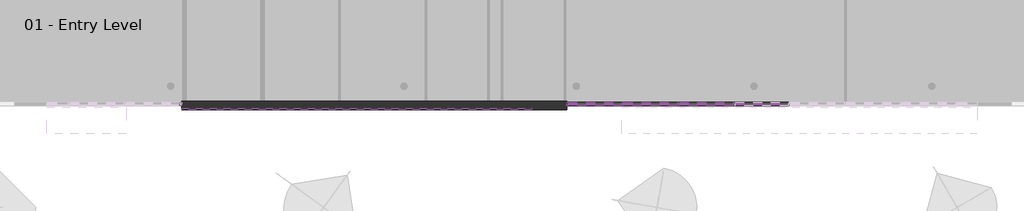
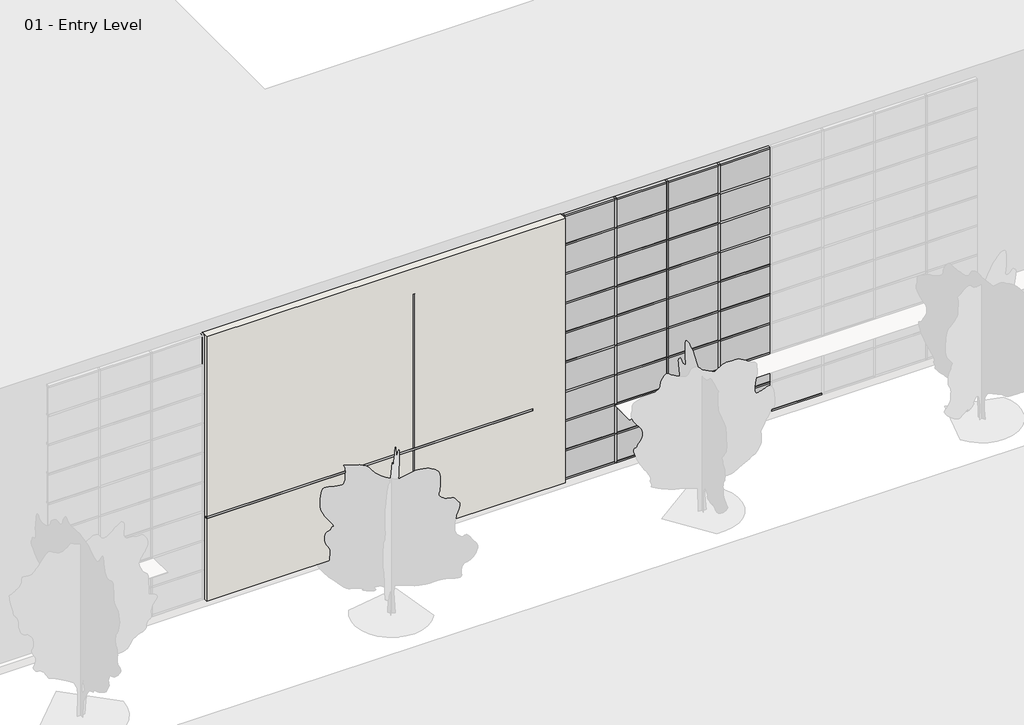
# One storey, part 2 of 34: 84 members, 36 plates, 2 proxies, 1 wall.
"""IFC4 building model written with IfcOpenShell, lengths in millimetres."""

from ifc_helpers import new_model, si_unit, frame, origin, origin_with_axes, place, context, project, spatial, polyline, outline, extrude, faceted_brep, transform, mapped, element, save
from components import member_2b49869a, member_75074519, member_391b434c, member_9e90ae50, system_panel_glazed_1b9d6098, system_panel_glazed_70da479d, system_panel_solid_b376696c, system_panel_solid_77e8b053

model = new_model("IFC4")

# Units and contexts
model_context = context("Model", 3, world=origin())
ifc_project = project(units=[si_unit("LENGTHUNIT", "METRE", prefix="MILLI")], contexts=[model_context])

# Site, building, storey
site = spatial("IfcSite", under=ifc_project)
building = spatial("IfcBuilding", under=site)
storey = spatial("IfcBuildingStorey", under=building, Name="01 - Entry Level", Elevation=0.0)

# Proxies
placement = place(None, origin())
element("IfcBuildingElementProxy", 1, Name="Reveal", ObjectType="Reveal", at=placement, inside=storey, context=model_context, shape_type="SweptSolid", body=[
    extrude(outline(polyline([(16536.3207476, -203.275), (16536.3207476, -254.075), (16460.1207476, -254.075), (16460.1207476, -203.275), (16536.3207476, -203.275)])), origin_with_axes(), (0.0, 0.0, 1.0), 9906.0),
])
element("IfcBuildingElementProxy", 2, Name="Reveal", ObjectType="Reveal", at=placement, inside=storey, context=model_context, shape_type="SweptSolid", body=[
    extrude(outline(polyline([(8357.5207476, -254.075), (8357.5207476, -203.275), (21159.1207476, -203.275), (21159.1207476, -254.075), (8357.5207476, -254.075)])), frame((0.0, 0.0, 3429.0), z_axis=(0.0, 0.0, 1.0), x_axis=(1.0, 0.0, 0.0)), (0.0, 0.0, 1.0), 76.2),
])

# Members
member_shape = member_2b49869a(model_context)
element("IfcMember", 3, ObjectType="Rectangular Mullion : 2.5\" x 5\" rectangular", at=placement, inside=storey, context=model_context, shape_type="MappedRepresentation", body=[
    mapped(member_shape, transform((22467.2207476, -47.7, 9753.6), x_axis=(1.0, 0.0, 0.0), y_axis=(0.0, -1.0, 0.0), z_axis=(0.0, 0.0, -1.0))),
])
element("IfcMember", 4, ObjectType="Rectangular Mullion : 2.5\" x 5\" rectangular", at=placement, inside=storey, context=model_context, shape_type="MappedRepresentation", body=[
    mapped(member_shape, transform((24499.2207476, -47.7, 9753.6), x_axis=(1.0, 0.0, 0.0), y_axis=(0.0, -1.0, 0.0), z_axis=(0.0, 0.0, -1.0))),
])
element("IfcMember", 5, ObjectType="Rectangular Mullion : 2.5\" x 5\" rectangular", at=placement, inside=storey, context=model_context, shape_type="MappedRepresentation", body=[
    mapped(member_shape, transform((26531.2207476, -47.7, 9753.6), x_axis=(1.0, 0.0, 0.0), y_axis=(0.0, -1.0, 0.0), z_axis=(0.0, 0.0, -1.0))),
])
element("IfcMember", 6, ObjectType="Rectangular Mullion : 2.5\" x 5\" rectangular", at=placement, inside=storey, context=model_context, shape_type="MappedRepresentation", body=[
    mapped(member_shape, transform((28563.2207476, -47.7, 9753.6), x_axis=(1.0, 0.0, 0.0), y_axis=(0.0, -1.0, 0.0), z_axis=(0.0, 0.0, -1.0))),
])
element("IfcMember", 7, ObjectType="Rectangular Mullion : 2.5\" x 5\" rectangular", at=placement, inside=storey, context=model_context, shape_type="MappedRepresentation", body=[
    mapped(member_shape, transform((8306.7207476, -47.7, 9753.6), x_axis=(1.0, 0.0, 0.0), y_axis=(0.0, -1.0, 0.0), z_axis=(0.0, 0.0, -1.0))),
])
member_2_shape = member_75074519(model_context)
element("IfcMember", 8, ObjectType="Rectangular Mullion : 2.5\" x 5\" rectangular", at=placement, inside=storey, context=model_context, shape_type="MappedRepresentation", body=[
    mapped(member_2_shape, transform((22429.1207476, -47.7, 10972.8), x_axis=(-1.0, 0.0, 0.0), y_axis=(0.0, -1.0, 0.0), z_axis=(0.0, 0.0, 1.0))),
])
member_3_shape = member_391b434c(model_context)
element("IfcMember", 9, ObjectType="Rectangular Mullion : 2.5\" x 5\" rectangular", at=placement, inside=storey, context=model_context, shape_type="MappedRepresentation", body=[
    mapped(member_3_shape, transform((24467.4707476, -47.7, 10972.8), x_axis=(0.0, 0.0, 1.0), y_axis=(0.0, -1.0, 0.0), z_axis=(1.0, 0.0, 0.0))),
])
element("IfcMember", 10, ObjectType="Rectangular Mullion : 2.5\" x 5\" rectangular", at=placement, inside=storey, context=model_context, shape_type="MappedRepresentation", body=[
    mapped(member_3_shape, transform((26499.4707476, -47.7, 10972.8), x_axis=(0.0, 0.0, 1.0), y_axis=(0.0, -1.0, 0.0), z_axis=(1.0, 0.0, 0.0))),
])
element("IfcMember", 11, ObjectType="Rectangular Mullion : 2.5\" x 5\" rectangular", at=placement, inside=storey, context=model_context, shape_type="MappedRepresentation", body=[
    mapped(member_3_shape, transform((28531.4707476, -47.7, 10972.8), x_axis=(0.0, 0.0, 1.0), y_axis=(0.0, -1.0, 0.0), z_axis=(1.0, 0.0, 0.0))),
])
element("IfcMember", 12, ObjectType="Rectangular Mullion : 2.5\" x 5\" rectangular", at=placement, inside=storey, context=model_context, shape_type="MappedRepresentation", body=[
    mapped(member_3_shape, transform((30563.4707476, -47.7, 10972.8), x_axis=(0.0, 0.0, 1.0), y_axis=(0.0, -1.0, 0.0), z_axis=(1.0, 0.0, 0.0))),
])
element("IfcMember", 13, ObjectType="Rectangular Mullion : 2.5\" x 5\" rectangular", at=placement, inside=storey, context=model_context, shape_type="MappedRepresentation", body=[
    mapped(member_3_shape, transform((22498.9707476, -47.7, 0.0), x_axis=(0.0, 0.0, -1.0), y_axis=(0.0, -1.0, 0.0), z_axis=(-1.0, 0.0, 0.0))),
])
element("IfcMember", 14, ObjectType="Rectangular Mullion : 2.5\" x 5\" rectangular", at=placement, inside=storey, context=model_context, shape_type="MappedRepresentation", body=[
    mapped(member_3_shape, transform((24530.9707476, -47.7, 0.0), x_axis=(0.0, 0.0, -1.0), y_axis=(0.0, -1.0, 0.0), z_axis=(-1.0, 0.0, 0.0))),
])
element("IfcMember", 15, ObjectType="Rectangular Mullion : 2.5\" x 5\" rectangular", at=placement, inside=storey, context=model_context, shape_type="MappedRepresentation", body=[
    mapped(member_3_shape, transform((26562.9707476, -47.7, 0.0), x_axis=(0.0, 0.0, -1.0), y_axis=(0.0, -1.0, 0.0), z_axis=(-1.0, 0.0, 0.0))),
])
element("IfcMember", 16, ObjectType="Rectangular Mullion : 2.5\" x 5\" rectangular", at=placement, inside=storey, context=model_context, shape_type="MappedRepresentation", body=[
    mapped(member_3_shape, transform((28594.9707476, -47.7, 0.0), x_axis=(0.0, 0.0, -1.0), y_axis=(0.0, -1.0, 0.0), z_axis=(-1.0, 0.0, 0.0))),
])
element("IfcMember", 17, ObjectType="Rectangular Mullion : 2.5\" x 5\" rectangular", at=placement, inside=storey, context=model_context, shape_type="MappedRepresentation", body=[
    mapped(member_3_shape, transform((30626.9707476, -47.7, 0.0), x_axis=(0.0, 0.0, -1.0), y_axis=(0.0, -1.0, 0.0), z_axis=(-1.0, 0.0, 0.0))),
])
member_4_shape = member_9e90ae50(model_context)
element("IfcMember", 18, ObjectType="Rectangular Mullion : 2.5\" x 5\" rectangular", at=placement, inside=storey, context=model_context, shape_type="MappedRepresentation", body=[
    mapped(member_4_shape, transform((24467.4707476, -47.7, 1219.2), x_axis=(0.0, 0.0, 1.0), y_axis=(0.0, -1.0, 0.0), z_axis=(1.0, 0.0, 0.0))),
])
element("IfcMember", 19, ObjectType="Rectangular Mullion : 2.5\" x 5\" rectangular", at=placement, inside=storey, context=model_context, shape_type="MappedRepresentation", body=[
    mapped(member_4_shape, transform((26499.4707476, -47.7, 1219.2), x_axis=(0.0, 0.0, 1.0), y_axis=(0.0, -1.0, 0.0), z_axis=(1.0, 0.0, 0.0))),
])
element("IfcMember", 20, ObjectType="Rectangular Mullion : 2.5\" x 5\" rectangular", at=placement, inside=storey, context=model_context, shape_type="MappedRepresentation", body=[
    mapped(member_4_shape, transform((28531.4707476, -47.7, 1219.2), x_axis=(0.0, 0.0, 1.0), y_axis=(0.0, -1.0, 0.0), z_axis=(1.0, 0.0, 0.0))),
])
element("IfcMember", 21, ObjectType="Rectangular Mullion : 2.5\" x 5\" rectangular", at=placement, inside=storey, context=model_context, shape_type="MappedRepresentation", body=[
    mapped(member_4_shape, transform((30563.4707476, -47.7, 1219.2), x_axis=(0.0, 0.0, 1.0), y_axis=(0.0, -1.0, 0.0), z_axis=(1.0, 0.0, 0.0))),
])
element("IfcMember", 22, ObjectType="Rectangular Mullion : 2.5\" x 5\" rectangular", at=placement, inside=storey, context=model_context, shape_type="MappedRepresentation", body=[
    mapped(member_4_shape, transform((24467.4707476, -47.7, 2438.4), x_axis=(0.0, 0.0, 1.0), y_axis=(0.0, -1.0, 0.0), z_axis=(1.0, 0.0, 0.0))),
])
element("IfcMember", 23, ObjectType="Rectangular Mullion : 2.5\" x 5\" rectangular", at=placement, inside=storey, context=model_context, shape_type="MappedRepresentation", body=[
    mapped(member_4_shape, transform((26499.4707476, -47.7, 2438.4), x_axis=(0.0, 0.0, 1.0), y_axis=(0.0, -1.0, 0.0), z_axis=(1.0, 0.0, 0.0))),
])
element("IfcMember", 24, ObjectType="Rectangular Mullion : 2.5\" x 5\" rectangular", at=placement, inside=storey, context=model_context, shape_type="MappedRepresentation", body=[
    mapped(member_4_shape, transform((28531.4707476, -47.7, 2438.4), x_axis=(0.0, 0.0, 1.0), y_axis=(0.0, -1.0, 0.0), z_axis=(1.0, 0.0, 0.0))),
])
element("IfcMember", 25, ObjectType="Rectangular Mullion : 2.5\" x 5\" rectangular", at=placement, inside=storey, context=model_context, shape_type="MappedRepresentation", body=[
    mapped(member_4_shape, transform((30563.4707476, -47.7, 2438.4), x_axis=(0.0, 0.0, 1.0), y_axis=(0.0, -1.0, 0.0), z_axis=(1.0, 0.0, 0.0))),
])
element("IfcMember", 26, ObjectType="Rectangular Mullion : 2.5\" x 5\" rectangular", at=placement, inside=storey, context=model_context, shape_type="MappedRepresentation", body=[
    mapped(member_4_shape, transform((24467.4707476, -47.7, 3657.6), x_axis=(0.0, 0.0, 1.0), y_axis=(0.0, -1.0, 0.0), z_axis=(1.0, 0.0, 0.0))),
])
element("IfcMember", 27, ObjectType="Rectangular Mullion : 2.5\" x 5\" rectangular", at=placement, inside=storey, context=model_context, shape_type="MappedRepresentation", body=[
    mapped(member_4_shape, transform((26499.4707476, -47.7, 3657.6), x_axis=(0.0, 0.0, 1.0), y_axis=(0.0, -1.0, 0.0), z_axis=(1.0, 0.0, 0.0))),
])
element("IfcMember", 28, ObjectType="Rectangular Mullion : 2.5\" x 5\" rectangular", at=placement, inside=storey, context=model_context, shape_type="MappedRepresentation", body=[
    mapped(member_4_shape, transform((28531.4707476, -47.7, 3657.6), x_axis=(0.0, 0.0, 1.0), y_axis=(0.0, -1.0, 0.0), z_axis=(1.0, 0.0, 0.0))),
])
element("IfcMember", 29, ObjectType="Rectangular Mullion : 2.5\" x 5\" rectangular", at=placement, inside=storey, context=model_context, shape_type="MappedRepresentation", body=[
    mapped(member_4_shape, transform((30563.4707476, -47.7, 3657.6), x_axis=(0.0, 0.0, 1.0), y_axis=(0.0, -1.0, 0.0), z_axis=(1.0, 0.0, 0.0))),
])
element("IfcMember", 30, ObjectType="Rectangular Mullion : 2.5\" x 5\" rectangular", at=placement, inside=storey, context=model_context, shape_type="MappedRepresentation", body=[
    mapped(member_4_shape, transform((24467.4707476, -47.7, 4876.8), x_axis=(0.0, 0.0, 1.0), y_axis=(0.0, -1.0, 0.0), z_axis=(1.0, 0.0, 0.0))),
])
element("IfcMember", 31, ObjectType="Rectangular Mullion : 2.5\" x 5\" rectangular", at=placement, inside=storey, context=model_context, shape_type="MappedRepresentation", body=[
    mapped(member_4_shape, transform((26499.4707476, -47.7, 4876.8), x_axis=(0.0, 0.0, 1.0), y_axis=(0.0, -1.0, 0.0), z_axis=(1.0, 0.0, 0.0))),
])
element("IfcMember", 32, ObjectType="Rectangular Mullion : 2.5\" x 5\" rectangular", at=placement, inside=storey, context=model_context, shape_type="MappedRepresentation", body=[
    mapped(member_4_shape, transform((28531.4707476, -47.7, 4876.8), x_axis=(0.0, 0.0, 1.0), y_axis=(0.0, -1.0, 0.0), z_axis=(1.0, 0.0, 0.0))),
])
element("IfcMember", 33, ObjectType="Rectangular Mullion : 2.5\" x 5\" rectangular", at=placement, inside=storey, context=model_context, shape_type="MappedRepresentation", body=[
    mapped(member_4_shape, transform((30563.4707476, -47.7, 4876.8), x_axis=(0.0, 0.0, 1.0), y_axis=(0.0, -1.0, 0.0), z_axis=(1.0, 0.0, 0.0))),
])
element("IfcMember", 34, ObjectType="Rectangular Mullion : 2.5\" x 5\" rectangular", at=placement, inside=storey, context=model_context, shape_type="MappedRepresentation", body=[
    mapped(member_4_shape, transform((24467.4707476, -47.7, 6096.0), x_axis=(0.0, 0.0, 1.0), y_axis=(0.0, -1.0, 0.0), z_axis=(1.0, 0.0, 0.0))),
])
element("IfcMember", 35, ObjectType="Rectangular Mullion : 2.5\" x 5\" rectangular", at=placement, inside=storey, context=model_context, shape_type="MappedRepresentation", body=[
    mapped(member_4_shape, transform((26499.4707476, -47.7, 6096.0), x_axis=(0.0, 0.0, 1.0), y_axis=(0.0, -1.0, 0.0), z_axis=(1.0, 0.0, 0.0))),
])
element("IfcMember", 36, ObjectType="Rectangular Mullion : 2.5\" x 5\" rectangular", at=placement, inside=storey, context=model_context, shape_type="MappedRepresentation", body=[
    mapped(member_4_shape, transform((28531.4707476, -47.7, 6096.0), x_axis=(0.0, 0.0, 1.0), y_axis=(0.0, -1.0, 0.0), z_axis=(1.0, 0.0, 0.0))),
])
element("IfcMember", 37, ObjectType="Rectangular Mullion : 2.5\" x 5\" rectangular", at=placement, inside=storey, context=model_context, shape_type="MappedRepresentation", body=[
    mapped(member_4_shape, transform((30563.4707476, -47.7, 6096.0), x_axis=(0.0, 0.0, 1.0), y_axis=(0.0, -1.0, 0.0), z_axis=(1.0, 0.0, 0.0))),
])
element("IfcMember", 38, ObjectType="Rectangular Mullion : 2.5\" x 5\" rectangular", at=placement, inside=storey, context=model_context, shape_type="MappedRepresentation", body=[
    mapped(member_4_shape, transform((24467.4707476, -47.7, 7315.2), x_axis=(0.0, 0.0, 1.0), y_axis=(0.0, -1.0, 0.0), z_axis=(1.0, 0.0, 0.0))),
])
element("IfcMember", 39, ObjectType="Rectangular Mullion : 2.5\" x 5\" rectangular", at=placement, inside=storey, context=model_context, shape_type="MappedRepresentation", body=[
    mapped(member_4_shape, transform((26499.4707476, -47.7, 7315.2), x_axis=(0.0, 0.0, 1.0), y_axis=(0.0, -1.0, 0.0), z_axis=(1.0, 0.0, 0.0))),
])
element("IfcMember", 40, ObjectType="Rectangular Mullion : 2.5\" x 5\" rectangular", at=placement, inside=storey, context=model_context, shape_type="MappedRepresentation", body=[
    mapped(member_4_shape, transform((28531.4707476, -47.7, 7315.2), x_axis=(0.0, 0.0, 1.0), y_axis=(0.0, -1.0, 0.0), z_axis=(1.0, 0.0, 0.0))),
])
element("IfcMember", 41, ObjectType="Rectangular Mullion : 2.5\" x 5\" rectangular", at=placement, inside=storey, context=model_context, shape_type="MappedRepresentation", body=[
    mapped(member_4_shape, transform((24467.4707476, -47.7, 8534.4), x_axis=(0.0, 0.0, 1.0), y_axis=(0.0, -1.0, 0.0), z_axis=(1.0, 0.0, 0.0))),
])
element("IfcMember", 42, ObjectType="Rectangular Mullion : 2.5\" x 5\" rectangular", at=placement, inside=storey, context=model_context, shape_type="MappedRepresentation", body=[
    mapped(member_4_shape, transform((26499.4707476, -47.7, 8534.4), x_axis=(0.0, 0.0, 1.0), y_axis=(0.0, -1.0, 0.0), z_axis=(1.0, 0.0, 0.0))),
])
element("IfcMember", 43, ObjectType="Rectangular Mullion : 2.5\" x 5\" rectangular", at=placement, inside=storey, context=model_context, shape_type="MappedRepresentation", body=[
    mapped(member_4_shape, transform((28531.4707476, -47.7, 8534.4), x_axis=(0.0, 0.0, 1.0), y_axis=(0.0, -1.0, 0.0), z_axis=(1.0, 0.0, 0.0))),
])
element("IfcMember", 44, ObjectType="Rectangular Mullion : 2.5\" x 5\" rectangular", at=placement, inside=storey, context=model_context, shape_type="MappedRepresentation", body=[
    mapped(member_4_shape, transform((24467.4707476, -47.7, 9753.6), x_axis=(0.0, 0.0, 1.0), y_axis=(0.0, -1.0, 0.0), z_axis=(1.0, 0.0, 0.0))),
])
element("IfcMember", 45, ObjectType="Rectangular Mullion : 2.5\" x 5\" rectangular", at=placement, inside=storey, context=model_context, shape_type="MappedRepresentation", body=[
    mapped(member_4_shape, transform((26499.4707476, -47.7, 9753.6), x_axis=(0.0, 0.0, 1.0), y_axis=(0.0, -1.0, 0.0), z_axis=(1.0, 0.0, 0.0))),
])
element("IfcMember", 46, ObjectType="Rectangular Mullion : 2.5\" x 5\" rectangular", at=placement, inside=storey, context=model_context, shape_type="MappedRepresentation", body=[
    mapped(member_4_shape, transform((28531.4707476, -47.7, 9753.6), x_axis=(0.0, 0.0, 1.0), y_axis=(0.0, -1.0, 0.0), z_axis=(1.0, 0.0, 0.0))),
])
element("IfcMember", 47, ObjectType="Rectangular Mullion : 2.5\" x 5\" rectangular", at=placement, inside=storey, context=model_context, shape_type="MappedRepresentation", body=[
    mapped(member_shape, transform((22467.2207476, -47.7, 0.0), x_axis=(1.0, 0.0, 0.0), y_axis=(0.0, -1.0, 0.0), z_axis=(0.0, 0.0, -1.0))),
])
element("IfcMember", 48, ObjectType="Rectangular Mullion : 2.5\" x 5\" rectangular", at=placement, inside=storey, context=model_context, shape_type="MappedRepresentation", body=[
    mapped(member_shape, transform((24499.2207476, -47.7, 0.0), x_axis=(1.0, 0.0, 0.0), y_axis=(0.0, -1.0, 0.0), z_axis=(0.0, 0.0, -1.0))),
])
element("IfcMember", 49, ObjectType="Rectangular Mullion : 2.5\" x 5\" rectangular", at=placement, inside=storey, context=model_context, shape_type="MappedRepresentation", body=[
    mapped(member_shape, transform((26531.2207476, -47.7, 0.0), x_axis=(1.0, 0.0, 0.0), y_axis=(0.0, -1.0, 0.0), z_axis=(0.0, 0.0, -1.0))),
])
element("IfcMember", 50, ObjectType="Rectangular Mullion : 2.5\" x 5\" rectangular", at=placement, inside=storey, context=model_context, shape_type="MappedRepresentation", body=[
    mapped(member_shape, transform((28563.2207476, -47.7, 0.0), x_axis=(1.0, 0.0, 0.0), y_axis=(0.0, -1.0, 0.0), z_axis=(0.0, 0.0, -1.0))),
])
element("IfcMember", 51, ObjectType="Rectangular Mullion : 2.5\" x 5\" rectangular", at=placement, inside=storey, context=model_context, shape_type="MappedRepresentation", body=[
    mapped(member_shape, transform((22467.2207476, -47.7, 1219.2), x_axis=(1.0, 0.0, 0.0), y_axis=(0.0, -1.0, 0.0), z_axis=(0.0, 0.0, -1.0))),
])
element("IfcMember", 52, ObjectType="Rectangular Mullion : 2.5\" x 5\" rectangular", at=placement, inside=storey, context=model_context, shape_type="MappedRepresentation", body=[
    mapped(member_shape, transform((24499.2207476, -47.7, 1219.2), x_axis=(1.0, 0.0, 0.0), y_axis=(0.0, -1.0, 0.0), z_axis=(0.0, 0.0, -1.0))),
])
element("IfcMember", 53, ObjectType="Rectangular Mullion : 2.5\" x 5\" rectangular", at=placement, inside=storey, context=model_context, shape_type="MappedRepresentation", body=[
    mapped(member_shape, transform((26531.2207476, -47.7, 1219.2), x_axis=(1.0, 0.0, 0.0), y_axis=(0.0, -1.0, 0.0), z_axis=(0.0, 0.0, -1.0))),
])
element("IfcMember", 54, ObjectType="Rectangular Mullion : 2.5\" x 5\" rectangular", at=placement, inside=storey, context=model_context, shape_type="MappedRepresentation", body=[
    mapped(member_shape, transform((28563.2207476, -47.7, 1219.2), x_axis=(1.0, 0.0, 0.0), y_axis=(0.0, -1.0, 0.0), z_axis=(0.0, 0.0, -1.0))),
])
element("IfcMember", 55, ObjectType="Rectangular Mullion : 2.5\" x 5\" rectangular", at=placement, inside=storey, context=model_context, shape_type="MappedRepresentation", body=[
    mapped(member_shape, transform((22467.2207476, -47.7, 2438.4), x_axis=(1.0, 0.0, 0.0), y_axis=(0.0, -1.0, 0.0), z_axis=(0.0, 0.0, -1.0))),
])
element("IfcMember", 56, ObjectType="Rectangular Mullion : 2.5\" x 5\" rectangular", at=placement, inside=storey, context=model_context, shape_type="MappedRepresentation", body=[
    mapped(member_shape, transform((24499.2207476, -47.7, 2438.4), x_axis=(1.0, 0.0, 0.0), y_axis=(0.0, -1.0, 0.0), z_axis=(0.0, 0.0, -1.0))),
])
element("IfcMember", 57, ObjectType="Rectangular Mullion : 2.5\" x 5\" rectangular", at=placement, inside=storey, context=model_context, shape_type="MappedRepresentation", body=[
    mapped(member_shape, transform((26531.2207476, -47.7, 2438.4), x_axis=(1.0, 0.0, 0.0), y_axis=(0.0, -1.0, 0.0), z_axis=(0.0, 0.0, -1.0))),
])
element("IfcMember", 58, ObjectType="Rectangular Mullion : 2.5\" x 5\" rectangular", at=placement, inside=storey, context=model_context, shape_type="MappedRepresentation", body=[
    mapped(member_shape, transform((28563.2207476, -47.7, 2438.4), x_axis=(1.0, 0.0, 0.0), y_axis=(0.0, -1.0, 0.0), z_axis=(0.0, 0.0, -1.0))),
])
element("IfcMember", 59, ObjectType="Rectangular Mullion : 2.5\" x 5\" rectangular", at=placement, inside=storey, context=model_context, shape_type="MappedRepresentation", body=[
    mapped(member_shape, transform((22467.2207476, -47.7, 3657.6), x_axis=(1.0, 0.0, 0.0), y_axis=(0.0, -1.0, 0.0), z_axis=(0.0, 0.0, -1.0))),
])
element("IfcMember", 60, ObjectType="Rectangular Mullion : 2.5\" x 5\" rectangular", at=placement, inside=storey, context=model_context, shape_type="MappedRepresentation", body=[
    mapped(member_shape, transform((24499.2207476, -47.7, 3657.6), x_axis=(1.0, 0.0, 0.0), y_axis=(0.0, -1.0, 0.0), z_axis=(0.0, 0.0, -1.0))),
])
element("IfcMember", 61, ObjectType="Rectangular Mullion : 2.5\" x 5\" rectangular", at=placement, inside=storey, context=model_context, shape_type="MappedRepresentation", body=[
    mapped(member_shape, transform((26531.2207476, -47.7, 3657.6), x_axis=(1.0, 0.0, 0.0), y_axis=(0.0, -1.0, 0.0), z_axis=(0.0, 0.0, -1.0))),
])
element("IfcMember", 62, ObjectType="Rectangular Mullion : 2.5\" x 5\" rectangular", at=placement, inside=storey, context=model_context, shape_type="MappedRepresentation", body=[
    mapped(member_shape, transform((28563.2207476, -47.7, 3657.6), x_axis=(1.0, 0.0, 0.0), y_axis=(0.0, -1.0, 0.0), z_axis=(0.0, 0.0, -1.0))),
])
element("IfcMember", 63, ObjectType="Rectangular Mullion : 2.5\" x 5\" rectangular", at=placement, inside=storey, context=model_context, shape_type="MappedRepresentation", body=[
    mapped(member_shape, transform((22467.2207476, -47.7, 4876.8), x_axis=(1.0, 0.0, 0.0), y_axis=(0.0, -1.0, 0.0), z_axis=(0.0, 0.0, -1.0))),
])
element("IfcMember", 64, ObjectType="Rectangular Mullion : 2.5\" x 5\" rectangular", at=placement, inside=storey, context=model_context, shape_type="MappedRepresentation", body=[
    mapped(member_shape, transform((24499.2207476, -47.7, 4876.8), x_axis=(1.0, 0.0, 0.0), y_axis=(0.0, -1.0, 0.0), z_axis=(0.0, 0.0, -1.0))),
])
element("IfcMember", 65, ObjectType="Rectangular Mullion : 2.5\" x 5\" rectangular", at=placement, inside=storey, context=model_context, shape_type="MappedRepresentation", body=[
    mapped(member_shape, transform((26531.2207476, -47.7, 4876.8), x_axis=(1.0, 0.0, 0.0), y_axis=(0.0, -1.0, 0.0), z_axis=(0.0, 0.0, -1.0))),
])
element("IfcMember", 66, ObjectType="Rectangular Mullion : 2.5\" x 5\" rectangular", at=placement, inside=storey, context=model_context, shape_type="MappedRepresentation", body=[
    mapped(member_shape, transform((28563.2207476, -47.7, 4876.8), x_axis=(1.0, 0.0, 0.0), y_axis=(0.0, -1.0, 0.0), z_axis=(0.0, 0.0, -1.0))),
])
element("IfcMember", 67, ObjectType="Rectangular Mullion : 2.5\" x 5\" rectangular", at=placement, inside=storey, context=model_context, shape_type="MappedRepresentation", body=[
    mapped(member_shape, transform((22467.2207476, -47.7, 6096.0), x_axis=(1.0, 0.0, 0.0), y_axis=(0.0, -1.0, 0.0), z_axis=(0.0, 0.0, -1.0))),
])
element("IfcMember", 68, ObjectType="Rectangular Mullion : 2.5\" x 5\" rectangular", at=placement, inside=storey, context=model_context, shape_type="MappedRepresentation", body=[
    mapped(member_shape, transform((24499.2207476, -47.7, 6096.0), x_axis=(1.0, 0.0, 0.0), y_axis=(0.0, -1.0, 0.0), z_axis=(0.0, 0.0, -1.0))),
])
element("IfcMember", 69, ObjectType="Rectangular Mullion : 2.5\" x 5\" rectangular", at=placement, inside=storey, context=model_context, shape_type="MappedRepresentation", body=[
    mapped(member_shape, transform((26531.2207476, -47.7, 6096.0), x_axis=(1.0, 0.0, 0.0), y_axis=(0.0, -1.0, 0.0), z_axis=(0.0, 0.0, -1.0))),
])
element("IfcMember", 70, ObjectType="Rectangular Mullion : 2.5\" x 5\" rectangular", at=placement, inside=storey, context=model_context, shape_type="MappedRepresentation", body=[
    mapped(member_shape, transform((28563.2207476, -47.7, 6096.0), x_axis=(1.0, 0.0, 0.0), y_axis=(0.0, -1.0, 0.0), z_axis=(0.0, 0.0, -1.0))),
])
element("IfcMember", 71, ObjectType="Rectangular Mullion : 2.5\" x 5\" rectangular", at=placement, inside=storey, context=model_context, shape_type="MappedRepresentation", body=[
    mapped(member_shape, transform((22467.2207476, -47.7, 7315.2), x_axis=(1.0, 0.0, 0.0), y_axis=(0.0, -1.0, 0.0), z_axis=(0.0, 0.0, -1.0))),
])
element("IfcMember", 72, ObjectType="Rectangular Mullion : 2.5\" x 5\" rectangular", at=placement, inside=storey, context=model_context, shape_type="MappedRepresentation", body=[
    mapped(member_shape, transform((24499.2207476, -47.7, 7315.2), x_axis=(1.0, 0.0, 0.0), y_axis=(0.0, -1.0, 0.0), z_axis=(0.0, 0.0, -1.0))),
])
element("IfcMember", 73, ObjectType="Rectangular Mullion : 2.5\" x 5\" rectangular", at=placement, inside=storey, context=model_context, shape_type="MappedRepresentation", body=[
    mapped(member_shape, transform((26531.2207476, -47.7, 7315.2), x_axis=(1.0, 0.0, 0.0), y_axis=(0.0, -1.0, 0.0), z_axis=(0.0, 0.0, -1.0))),
])
element("IfcMember", 74, ObjectType="Rectangular Mullion : 2.5\" x 5\" rectangular", at=placement, inside=storey, context=model_context, shape_type="MappedRepresentation", body=[
    mapped(member_shape, transform((28563.2207476, -47.7, 7315.2), x_axis=(1.0, 0.0, 0.0), y_axis=(0.0, -1.0, 0.0), z_axis=(0.0, 0.0, -1.0))),
])
element("IfcMember", 75, ObjectType="Rectangular Mullion : 2.5\" x 5\" rectangular", at=placement, inside=storey, context=model_context, shape_type="MappedRepresentation", body=[
    mapped(member_shape, transform((22467.2207476, -47.7, 8534.4), x_axis=(1.0, 0.0, 0.0), y_axis=(0.0, -1.0, 0.0), z_axis=(0.0, 0.0, -1.0))),
])
element("IfcMember", 76, ObjectType="Rectangular Mullion : 2.5\" x 5\" rectangular", at=placement, inside=storey, context=model_context, shape_type="MappedRepresentation", body=[
    mapped(member_shape, transform((24499.2207476, -47.7, 8534.4), x_axis=(1.0, 0.0, 0.0), y_axis=(0.0, -1.0, 0.0), z_axis=(0.0, 0.0, -1.0))),
])
element("IfcMember", 77, ObjectType="Rectangular Mullion : 2.5\" x 5\" rectangular", at=placement, inside=storey, context=model_context, shape_type="MappedRepresentation", body=[
    mapped(member_shape, transform((26531.2207476, -47.7, 8534.4), x_axis=(1.0, 0.0, 0.0), y_axis=(0.0, -1.0, 0.0), z_axis=(0.0, 0.0, -1.0))),
])
element("IfcMember", 78, ObjectType="Rectangular Mullion : 2.5\" x 5\" rectangular", at=placement, inside=storey, context=model_context, shape_type="MappedRepresentation", body=[
    mapped(member_shape, transform((28563.2207476, -47.7, 8534.4), x_axis=(1.0, 0.0, 0.0), y_axis=(0.0, -1.0, 0.0), z_axis=(0.0, 0.0, -1.0))),
])
element("IfcMember", 79, ObjectType="Rectangular Mullion : 2.5\" x 5\" rectangular", at=placement, inside=storey, context=model_context, shape_type="MappedRepresentation", body=[
    mapped(member_2_shape, transform((22429.1207476, -47.7, 1219.2), x_axis=(-1.0, 0.0, 0.0), y_axis=(0.0, -1.0, 0.0), z_axis=(0.0, 0.0, 1.0))),
])
element("IfcMember", 80, ObjectType="Rectangular Mullion : 2.5\" x 5\" rectangular", at=placement, inside=storey, context=model_context, shape_type="MappedRepresentation", body=[
    mapped(member_2_shape, transform((22429.1207476, -47.7, 2438.4), x_axis=(-1.0, 0.0, 0.0), y_axis=(0.0, -1.0, 0.0), z_axis=(0.0, 0.0, 1.0))),
])
element("IfcMember", 81, ObjectType="Rectangular Mullion : 2.5\" x 5\" rectangular", at=placement, inside=storey, context=model_context, shape_type="MappedRepresentation", body=[
    mapped(member_2_shape, transform((22429.1207476, -47.7, 3657.6), x_axis=(-1.0, 0.0, 0.0), y_axis=(0.0, -1.0, 0.0), z_axis=(0.0, 0.0, 1.0))),
])
element("IfcMember", 82, ObjectType="Rectangular Mullion : 2.5\" x 5\" rectangular", at=placement, inside=storey, context=model_context, shape_type="MappedRepresentation", body=[
    mapped(member_2_shape, transform((22429.1207476, -47.7, 4876.8), x_axis=(-1.0, 0.0, 0.0), y_axis=(0.0, -1.0, 0.0), z_axis=(0.0, 0.0, 1.0))),
])
element("IfcMember", 83, ObjectType="Rectangular Mullion : 2.5\" x 5\" rectangular", at=placement, inside=storey, context=model_context, shape_type="MappedRepresentation", body=[
    mapped(member_2_shape, transform((22429.1207476, -47.7, 6096.0), x_axis=(-1.0, 0.0, 0.0), y_axis=(0.0, -1.0, 0.0), z_axis=(0.0, 0.0, 1.0))),
])
element("IfcMember", 84, ObjectType="Rectangular Mullion : 2.5\" x 5\" rectangular", at=placement, inside=storey, context=model_context, shape_type="MappedRepresentation", body=[
    mapped(member_2_shape, transform((22429.1207476, -47.7, 7315.2), x_axis=(-1.0, 0.0, 0.0), y_axis=(0.0, -1.0, 0.0), z_axis=(0.0, 0.0, 1.0))),
])
element("IfcMember", 85, ObjectType="Rectangular Mullion : 2.5\" x 5\" rectangular", at=placement, inside=storey, context=model_context, shape_type="MappedRepresentation", body=[
    mapped(member_2_shape, transform((22429.1207476, -47.7, 8534.4), x_axis=(-1.0, 0.0, 0.0), y_axis=(0.0, -1.0, 0.0), z_axis=(0.0, 0.0, 1.0))),
])
element("IfcMember", 86, ObjectType="Rectangular Mullion : 2.5\" x 5\" rectangular", at=placement, inside=storey, context=model_context, shape_type="MappedRepresentation", body=[
    mapped(member_2_shape, transform((22429.1207476, -47.7, 9753.6), x_axis=(-1.0, 0.0, 0.0), y_axis=(0.0, -1.0, 0.0), z_axis=(0.0, 0.0, 1.0))),
])

# Plates
system_panel_glazed_shape = system_panel_glazed_1b9d6098(model_context)
element("IfcPlate", 87, ObjectType="System Panel : Glazed", at=placement, inside=storey, context=model_context, shape_type="MappedRepresentation", body=[
    mapped(system_panel_glazed_shape, transform((23483.2207476, -47.7, 63.5), x_axis=(1.0, 0.0, 0.0), y_axis=(0.0, 1.0, 0.0), z_axis=(0.0, 0.0, 1.0))),
])
element("IfcPlate", 88, ObjectType="System Panel : Glazed", at=placement, inside=storey, context=model_context, shape_type="MappedRepresentation", body=[
    mapped(system_panel_glazed_shape, transform((25515.2207476, -47.7, 63.5), x_axis=(1.0, 0.0, 0.0), y_axis=(0.0, 1.0, 0.0), z_axis=(0.0, 0.0, 1.0))),
])
element("IfcPlate", 89, ObjectType="System Panel : Glazed", at=placement, inside=storey, context=model_context, shape_type="MappedRepresentation", body=[
    mapped(system_panel_glazed_shape, transform((27547.2207476, -47.7, 63.5), x_axis=(1.0, 0.0, 0.0), y_axis=(0.0, 1.0, 0.0), z_axis=(0.0, 0.0, 1.0))),
])
element("IfcPlate", 90, ObjectType="System Panel : Glazed", at=placement, inside=storey, context=model_context, shape_type="MappedRepresentation", body=[
    mapped(system_panel_glazed_shape, transform((29579.2207476, -47.7, 63.5), x_axis=(1.0, 0.0, 0.0), y_axis=(0.0, 1.0, 0.0), z_axis=(0.0, 0.0, 1.0))),
])
system_panel_glazed_2_shape = system_panel_glazed_70da479d(model_context)
element("IfcPlate", 91, ObjectType="System Panel : Glazed", at=placement, inside=storey, context=model_context, shape_type="MappedRepresentation", body=[
    mapped(system_panel_glazed_2_shape, transform((23483.2207476, -47.7, 1250.95), x_axis=(1.0, 0.0, 0.0), y_axis=(0.0, 1.0, 0.0), z_axis=(0.0, 0.0, 1.0))),
])
element("IfcPlate", 92, ObjectType="System Panel : Glazed", at=placement, inside=storey, context=model_context, shape_type="MappedRepresentation", body=[
    mapped(system_panel_glazed_2_shape, transform((25515.2207476, -47.7, 1250.95), x_axis=(1.0, 0.0, 0.0), y_axis=(0.0, 1.0, 0.0), z_axis=(0.0, 0.0, 1.0))),
])
element("IfcPlate", 93, ObjectType="System Panel : Glazed", at=placement, inside=storey, context=model_context, shape_type="MappedRepresentation", body=[
    mapped(system_panel_glazed_2_shape, transform((27547.2207476, -47.7, 1250.95), x_axis=(1.0, 0.0, 0.0), y_axis=(0.0, 1.0, 0.0), z_axis=(0.0, 0.0, 1.0))),
])
element("IfcPlate", 94, ObjectType="System Panel : Glazed", at=placement, inside=storey, context=model_context, shape_type="MappedRepresentation", body=[
    mapped(system_panel_glazed_2_shape, transform((29579.2207476, -47.7, 1250.95), x_axis=(1.0, 0.0, 0.0), y_axis=(0.0, 1.0, 0.0), z_axis=(0.0, 0.0, 1.0))),
])
element("IfcPlate", 95, ObjectType="System Panel : Glazed", at=placement, inside=storey, context=model_context, shape_type="MappedRepresentation", body=[
    mapped(system_panel_glazed_2_shape, transform((23483.2207476, -47.7, 3689.35), x_axis=(1.0, 0.0, 0.0), y_axis=(0.0, 1.0, 0.0), z_axis=(0.0, 0.0, 1.0))),
])
element("IfcPlate", 96, ObjectType="System Panel : Glazed", at=placement, inside=storey, context=model_context, shape_type="MappedRepresentation", body=[
    mapped(system_panel_glazed_2_shape, transform((25515.2207476, -47.7, 3689.35), x_axis=(1.0, 0.0, 0.0), y_axis=(0.0, 1.0, 0.0), z_axis=(0.0, 0.0, 1.0))),
])
element("IfcPlate", 97, ObjectType="System Panel : Glazed", at=placement, inside=storey, context=model_context, shape_type="MappedRepresentation", body=[
    mapped(system_panel_glazed_2_shape, transform((27547.2207476, -47.7, 3689.35), x_axis=(1.0, 0.0, 0.0), y_axis=(0.0, 1.0, 0.0), z_axis=(0.0, 0.0, 1.0))),
])
element("IfcPlate", 98, ObjectType="System Panel : Glazed", at=placement, inside=storey, context=model_context, shape_type="MappedRepresentation", body=[
    mapped(system_panel_glazed_2_shape, transform((29579.2207476, -47.7, 3689.35), x_axis=(1.0, 0.0, 0.0), y_axis=(0.0, 1.0, 0.0), z_axis=(0.0, 0.0, 1.0))),
])
element("IfcPlate", 99, ObjectType="System Panel : Glazed", at=placement, inside=storey, context=model_context, shape_type="MappedRepresentation", body=[
    mapped(system_panel_glazed_2_shape, transform((23483.2207476, -47.7, 4908.55), x_axis=(1.0, 0.0, 0.0), y_axis=(0.0, 1.0, 0.0), z_axis=(0.0, 0.0, 1.0))),
])
element("IfcPlate", 100, ObjectType="System Panel : Glazed", at=placement, inside=storey, context=model_context, shape_type="MappedRepresentation", body=[
    mapped(system_panel_glazed_2_shape, transform((25515.2207476, -47.7, 4908.55), x_axis=(1.0, 0.0, 0.0), y_axis=(0.0, 1.0, 0.0), z_axis=(0.0, 0.0, 1.0))),
])
element("IfcPlate", 101, ObjectType="System Panel : Glazed", at=placement, inside=storey, context=model_context, shape_type="MappedRepresentation", body=[
    mapped(system_panel_glazed_2_shape, transform((27547.2207476, -47.7, 4908.55), x_axis=(1.0, 0.0, 0.0), y_axis=(0.0, 1.0, 0.0), z_axis=(0.0, 0.0, 1.0))),
])
element("IfcPlate", 102, ObjectType="System Panel : Glazed", at=placement, inside=storey, context=model_context, shape_type="MappedRepresentation", body=[
    mapped(system_panel_glazed_2_shape, transform((29579.2207476, -47.7, 4908.55), x_axis=(1.0, 0.0, 0.0), y_axis=(0.0, 1.0, 0.0), z_axis=(0.0, 0.0, 1.0))),
])
element("IfcPlate", 103, ObjectType="System Panel : Glazed", at=placement, inside=storey, context=model_context, shape_type="MappedRepresentation", body=[
    mapped(system_panel_glazed_2_shape, transform((23483.2207476, -47.7, 7346.95), x_axis=(1.0, 0.0, 0.0), y_axis=(0.0, 1.0, 0.0), z_axis=(0.0, 0.0, 1.0))),
])
element("IfcPlate", 104, ObjectType="System Panel : Glazed", at=placement, inside=storey, context=model_context, shape_type="MappedRepresentation", body=[
    mapped(system_panel_glazed_2_shape, transform((25515.2207476, -47.7, 7346.95), x_axis=(1.0, 0.0, 0.0), y_axis=(0.0, 1.0, 0.0), z_axis=(0.0, 0.0, 1.0))),
])
element("IfcPlate", 105, ObjectType="System Panel : Glazed", at=placement, inside=storey, context=model_context, shape_type="MappedRepresentation", body=[
    mapped(system_panel_glazed_2_shape, transform((27547.2207476, -47.7, 7346.95), x_axis=(1.0, 0.0, 0.0), y_axis=(0.0, 1.0, 0.0), z_axis=(0.0, 0.0, 1.0))),
])
element("IfcPlate", 106, ObjectType="System Panel : Glazed", at=placement, inside=storey, context=model_context, shape_type="MappedRepresentation", body=[
    mapped(system_panel_glazed_2_shape, transform((29579.2207476, -47.7, 7346.95), x_axis=(1.0, 0.0, 0.0), y_axis=(0.0, 1.0, 0.0), z_axis=(0.0, 0.0, 1.0))),
])
element("IfcPlate", 107, ObjectType="System Panel : Glazed", at=placement, inside=storey, context=model_context, shape_type="MappedRepresentation", body=[
    mapped(system_panel_glazed_2_shape, transform((23483.2207476, -47.7, 8566.15), x_axis=(1.0, 0.0, 0.0), y_axis=(0.0, 1.0, 0.0), z_axis=(0.0, 0.0, 1.0))),
])
element("IfcPlate", 108, ObjectType="System Panel : Glazed", at=placement, inside=storey, context=model_context, shape_type="MappedRepresentation", body=[
    mapped(system_panel_glazed_2_shape, transform((25515.2207476, -47.7, 8566.15), x_axis=(1.0, 0.0, 0.0), y_axis=(0.0, 1.0, 0.0), z_axis=(0.0, 0.0, 1.0))),
])
element("IfcPlate", 109, ObjectType="System Panel : Glazed", at=placement, inside=storey, context=model_context, shape_type="MappedRepresentation", body=[
    mapped(system_panel_glazed_2_shape, transform((27547.2207476, -47.7, 8566.15), x_axis=(1.0, 0.0, 0.0), y_axis=(0.0, 1.0, 0.0), z_axis=(0.0, 0.0, 1.0))),
])
element("IfcPlate", 110, ObjectType="System Panel : Glazed", at=placement, inside=storey, context=model_context, shape_type="MappedRepresentation", body=[
    mapped(system_panel_glazed_2_shape, transform((29579.2207476, -47.7, 8566.15), x_axis=(1.0, 0.0, 0.0), y_axis=(0.0, 1.0, 0.0), z_axis=(0.0, 0.0, 1.0))),
])
system_panel_solid_shape = system_panel_solid_b376696c(model_context)
element("IfcPlate", 111, ObjectType="System Panel : Solid", at=placement, inside=storey, context=model_context, shape_type="MappedRepresentation", body=[
    mapped(system_panel_solid_shape, transform((23483.2207476, -47.7, 9785.35), x_axis=(1.0, 0.0, 0.0), y_axis=(0.0, 1.0, 0.0), z_axis=(0.0, 0.0, 1.0))),
])
element("IfcPlate", 112, ObjectType="System Panel : Solid", at=placement, inside=storey, context=model_context, shape_type="MappedRepresentation", body=[
    mapped(system_panel_solid_shape, transform((25515.2207476, -47.7, 9785.35), x_axis=(1.0, 0.0, 0.0), y_axis=(0.0, 1.0, 0.0), z_axis=(0.0, 0.0, 1.0))),
])
element("IfcPlate", 113, ObjectType="System Panel : Solid", at=placement, inside=storey, context=model_context, shape_type="MappedRepresentation", body=[
    mapped(system_panel_solid_shape, transform((27547.2207476, -47.7, 9785.35), x_axis=(1.0, 0.0, 0.0), y_axis=(0.0, 1.0, 0.0), z_axis=(0.0, 0.0, 1.0))),
])
element("IfcPlate", 114, ObjectType="System Panel : Solid", at=placement, inside=storey, context=model_context, shape_type="MappedRepresentation", body=[
    mapped(system_panel_solid_shape, transform((29579.2207476, -47.7, 9785.35), x_axis=(1.0, 0.0, 0.0), y_axis=(0.0, 1.0, 0.0), z_axis=(0.0, 0.0, 1.0))),
])
system_panel_solid_2_shape = system_panel_solid_77e8b053(model_context)
element("IfcPlate", 115, ObjectType="System Panel : Solid", at=placement, inside=storey, context=model_context, shape_type="MappedRepresentation", body=[
    mapped(system_panel_solid_2_shape, transform((23483.2207476, -47.7, 2470.15), x_axis=(1.0, 0.0, 0.0), y_axis=(0.0, 1.0, 0.0), z_axis=(0.0, 0.0, 1.0))),
])
element("IfcPlate", 116, ObjectType="System Panel : Solid", at=placement, inside=storey, context=model_context, shape_type="MappedRepresentation", body=[
    mapped(system_panel_solid_2_shape, transform((25515.2207476, -47.7, 2470.15), x_axis=(1.0, 0.0, 0.0), y_axis=(0.0, 1.0, 0.0), z_axis=(0.0, 0.0, 1.0))),
])
element("IfcPlate", 117, ObjectType="System Panel : Solid", at=placement, inside=storey, context=model_context, shape_type="MappedRepresentation", body=[
    mapped(system_panel_solid_2_shape, transform((27547.2207476, -47.7, 2470.15), x_axis=(1.0, 0.0, 0.0), y_axis=(0.0, 1.0, 0.0), z_axis=(0.0, 0.0, 1.0))),
])
element("IfcPlate", 118, ObjectType="System Panel : Solid", at=placement, inside=storey, context=model_context, shape_type="MappedRepresentation", body=[
    mapped(system_panel_solid_2_shape, transform((29579.2207476, -47.7, 2470.15), x_axis=(1.0, 0.0, 0.0), y_axis=(0.0, 1.0, 0.0), z_axis=(0.0, 0.0, 1.0))),
])
element("IfcPlate", 119, ObjectType="System Panel : Solid", at=placement, inside=storey, context=model_context, shape_type="MappedRepresentation", body=[
    mapped(system_panel_solid_2_shape, transform((23483.2207476, -47.7, 6127.75), x_axis=(1.0, 0.0, 0.0), y_axis=(0.0, 1.0, 0.0), z_axis=(0.0, 0.0, 1.0))),
])
element("IfcPlate", 120, ObjectType="System Panel : Solid", at=placement, inside=storey, context=model_context, shape_type="MappedRepresentation", body=[
    mapped(system_panel_solid_2_shape, transform((25515.2207476, -47.7, 6127.75), x_axis=(1.0, 0.0, 0.0), y_axis=(0.0, 1.0, 0.0), z_axis=(0.0, 0.0, 1.0))),
])
element("IfcPlate", 121, ObjectType="System Panel : Solid", at=placement, inside=storey, context=model_context, shape_type="MappedRepresentation", body=[
    mapped(system_panel_solid_2_shape, transform((27547.2207476, -47.7, 6127.75), x_axis=(1.0, 0.0, 0.0), y_axis=(0.0, 1.0, 0.0), z_axis=(0.0, 0.0, 1.0))),
])
element("IfcPlate", 122, ObjectType="System Panel : Solid", at=placement, inside=storey, context=model_context, shape_type="MappedRepresentation", body=[
    mapped(system_panel_solid_2_shape, transform((29579.2207476, -47.7, 6127.75), x_axis=(1.0, 0.0, 0.0), y_axis=(0.0, 1.0, 0.0), z_axis=(0.0, 0.0, 1.0))),
])

# Wall
element("IfcWall", 123, ObjectType="Exterior - EIFS on CMU", at=placement, inside=storey, context=model_context, shape_type="Brep", body=[
    faceted_brep([(22429.1207476, -254.075, 10972.8), (8357.5207476, -254.075, 10972.8), (8357.5207476, -254.075, 3505.2), (16460.1207476, -254.075, 3505.2), (16460.1207476, -254.075, 9906.0), (16536.3207476, -254.075, 9906.0), (16536.3207476, -254.075, 3505.2), (21159.1207476, -254.075, 3505.2), (21159.1207476, -254.075, 3429.0), (16536.3207476, -254.075, 3429.0), (16536.3207476, -254.075, 0.0), (22429.1207476, -254.075, 0.0), (8357.5207476, -254.075, 0.0), (16460.1207476, -254.075, 0.0), (16460.1207476, -254.075, 3429.0), (8357.5207476, -254.075, 3429.0), (22429.1207476, 53.9, 0.0), (22302.1207476, 53.9, 0.0), (20130.4207476, 53.9, 0.0), (20003.4207476, 53.9, 0.0), (19647.8207476, 53.9, 0.0), (19520.8207476, 53.9, 0.0), (17361.8207476, 53.9, 0.0), (17234.8207476, 53.9, 0.0), (14186.8207476, 53.9, 0.0), (14059.8207476, 53.9, 0.0), (11405.5207476, 53.9, 0.0), (11202.3207476, 53.9, 0.0), (8560.7207476, 53.9, 0.0), (8357.5207476, 53.9, 0.0), (8357.5207476, 53.9, 10972.8), (8560.7207476, 53.9, 10972.8), (11202.3207476, 53.9, 10972.8), (11405.5207476, 53.9, 10972.8), (14059.8207476, 53.9, 10972.8), (14186.8207476, 53.9, 10972.8), (17234.8207476, 53.9, 10972.8), (17361.8207476, 53.9, 10972.8), (19520.8207476, 53.9, 10972.8), (19647.8207476, 53.9, 10972.8), (20003.4207476, 53.9, 10972.8), (20130.4207476, 53.9, 10972.8), (22302.1207476, 53.9, 10972.8), (22429.1207476, 53.9, 10972.8), (22429.1207476, 53.9, 7315.2), (22429.1207476, 53.9, 7061.2), (22429.1207476, 53.9, 3657.6), (22429.1207476, 53.9, 3403.6), (16536.3207476, -203.275, 0.0), (16460.1207476, -203.275, 0.0), (8357.5207476, -203.275, 3429.0), (8357.5207476, -203.275, 3505.2), (16460.1207476, -203.275, 9906.0), (16536.3207476, -203.275, 9906.0), (16460.1207476, -203.275, 3505.2), (16460.1207476, -203.275, 3429.0), (16536.3207476, -203.275, 3429.0), (21159.1207476, -203.275, 3429.0), (21159.1207476, -203.275, 3505.2), (16536.3207476, -203.275, 3505.2)], [[[0, 1, 2, 3, 4, 5, 6, 7, 8, 9, 10, 11]], [[12, 13, 14, 15]], [[16, 17, 18, 19, 20, 21, 22, 23, 24, 25, 26, 27, 28, 29, 30, 31, 32, 33, 34, 35, 36, 37, 38, 39, 40, 41, 42, 43, 44, 45, 46, 47]], [[29, 28, 27, 26, 25, 24, 23, 22, 21, 20, 19, 18, 17, 16, 11, 10, 48, 49, 13, 12]], [[1, 0, 43, 42, 41, 40, 39, 38, 37, 36, 35, 34, 33, 32, 31, 30]], [[1, 30, 29, 12, 15, 50, 51, 2]], [[11, 16, 47, 46, 45, 44, 43, 0]], [[52, 53, 5, 4]], [[53, 52, 54, 51, 50, 55, 49, 48, 56, 57, 58, 59]], [[52, 4, 3, 54]], [[13, 49, 55, 14]], [[5, 53, 59, 6]], [[48, 10, 9, 56]], [[7, 58, 57, 8]], [[8, 57, 56, 9]], [[55, 50, 15, 14]], [[58, 7, 6, 59]], [[51, 54, 3, 2]]]),
])

save(model, "model.ifc")
